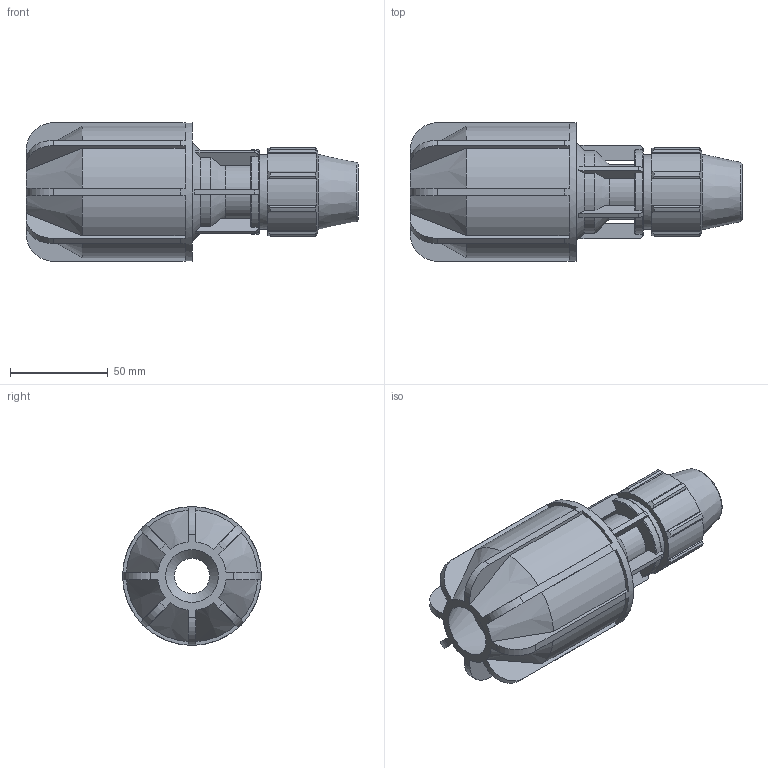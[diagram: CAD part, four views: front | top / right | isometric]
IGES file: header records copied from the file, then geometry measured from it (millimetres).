
Global section: file name: 070170020027__0701760200270A.ipt; native system: Autodesk Inventor 2015; preprocessor: unknown; author: KIM; date: 20170606.172058; units: millimetre
Bounding box: 170 x 71 x 71 mm (x, y, z)
Volume: 253976.4 mm3; surface area: 60069.3 mm2
Topology: 1 solids, 1 shells, 206 faces, 625 edges, 415 vertices
Faces by surface type: plane 112, cylinder 53, revolution 21, cone 20
Full cylindrical faces by diameter (mm): 28.041 x1, 38.4 x1, 71 x1
